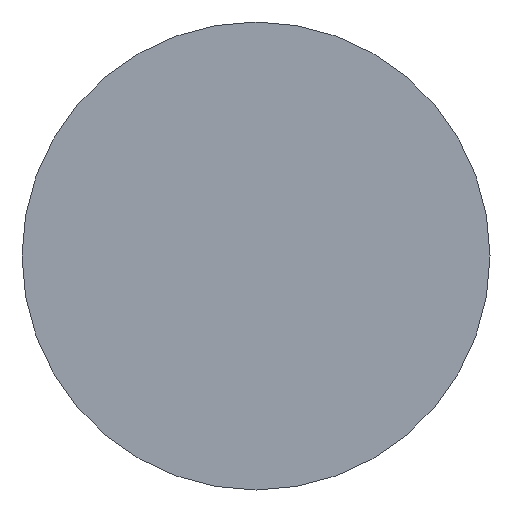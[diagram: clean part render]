
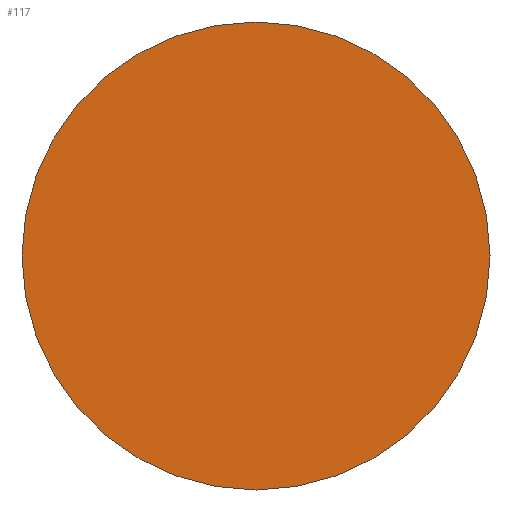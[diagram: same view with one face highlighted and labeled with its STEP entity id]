
A CAD part, left-side view. The second image highlights one B-rep face of the part: STEP entity #117.
In plain terms, the highlighted planar face has unit normal (-1, 0, 0).
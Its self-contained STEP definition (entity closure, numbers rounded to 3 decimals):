
#14 = EDGE_LOOP ( 'NONE', ( #257, #25 ) ) ;
#17 = VERTEX_POINT ( 'NONE', #37 ) ;
#25 = ORIENTED_EDGE ( 'NONE', *, *, #171, .F. ) ;
#31 = DIRECTION ( 'NONE',  ( 1., 0., 0. ) ) ;
#37 = CARTESIAN_POINT ( 'NONE',  ( 0., -20., 0. ) ) ;
#41 = AXIS2_PLACEMENT_3D ( 'NONE', #114, #268, #79 ) ;
#43 = PLANE ( 'NONE',  #41 ) ;
#53 = DIRECTION ( 'NONE',  ( 0., 1., 0. ) ) ;
#56 = AXIS2_PLACEMENT_3D ( 'NONE', #203, #241, #211 ) ;
#69 = CARTESIAN_POINT ( 'NONE',  ( 0., 20., 0. ) ) ;
#79 = DIRECTION ( 'NONE',  ( 0., -1., 0. ) ) ;
#82 = CARTESIAN_POINT ( 'NONE',  ( 0., 0., 0. ) ) ;
#103 = FACE_OUTER_BOUND ( 'NONE', #14, .T. ) ;
#114 = CARTESIAN_POINT ( 'NONE',  ( 0., 0., 0. ) ) ;
#117 = ADVANCED_FACE ( 'NONE', ( #103 ), #43, .T. ) ;
#171 = EDGE_CURVE ( 'NONE', #17, #189, #173, .T. ) ;
#173 = CIRCLE ( 'NONE', #56, 20. ) ;
#189 = VERTEX_POINT ( 'NONE', #69 ) ;
#197 = AXIS2_PLACEMENT_3D ( 'NONE', #82, #31, #53 ) ;
#203 = CARTESIAN_POINT ( 'NONE',  ( 0., 0., 0. ) ) ;
#211 = DIRECTION ( 'NONE',  ( 0., 1., 0. ) ) ;
#235 = EDGE_CURVE ( 'NONE', #189, #17, #246, .T. ) ;
#241 = DIRECTION ( 'NONE',  ( 1., 0., 0. ) ) ;
#246 = CIRCLE ( 'NONE', #197, 20. ) ;
#257 = ORIENTED_EDGE ( 'NONE', *, *, #235, .F. ) ;
#268 = DIRECTION ( 'NONE',  ( -1., 0., 0. ) ) ;
